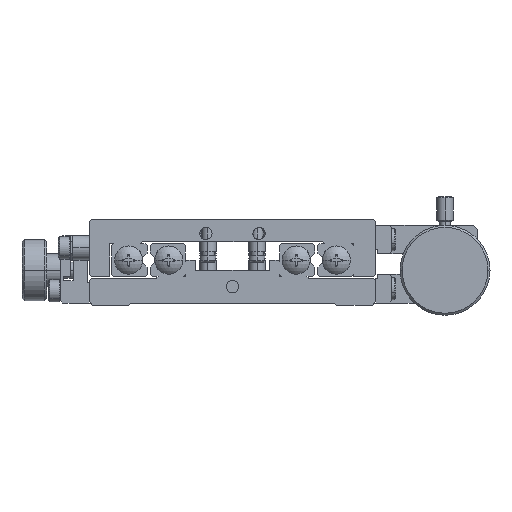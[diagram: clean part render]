
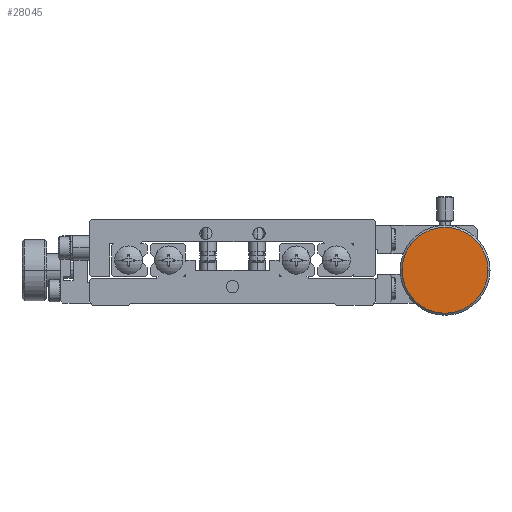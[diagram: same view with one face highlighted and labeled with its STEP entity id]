
A CAD part, front view. The second image highlights one B-rep face of the part: STEP entity #28045.
In plain terms, the highlighted planar face has unit normal (0, -1, 0).
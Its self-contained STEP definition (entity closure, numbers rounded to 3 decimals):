
#28045 = ADVANCED_FACE ( 'NONE', ( #41321 ), #41316, .T. ) ;
#28046 = EDGE_LOOP ( 'NONE', ( #28047, #28052 ) ) ;
#28047 = ORIENTED_EDGE ( 'NONE', *, *, #28051, .T. ) ;
#28051 = EDGE_CURVE ( 'NONE', #35808, #35807, #41306, .T. ) ;
#28052 = ORIENTED_EDGE ( 'NONE', *, *, #35806, .T. ) ;
#34869 = CARTESIAN_POINT ( 'NONE',  ( 41.5, -76., 8.5 ) ) ;
#34872 = CARTESIAN_POINT ( 'NONE',  ( 62.5, -76., 8.5 ) ) ;
#34873 = DIRECTION ( 'NONE',  ( 1., 0., 0. ) ) ;
#34874 = DIRECTION ( 'NONE',  ( 0., -1., 0. ) ) ;
#34875 = CARTESIAN_POINT ( 'NONE',  ( 52., -76., 8.5 ) ) ;
#34876 = AXIS2_PLACEMENT_3D ( 'NONE', #34875, #34874, #34873 ) ;
#34877 = CIRCLE ( 'NONE', #34876, 10.5 ) ;
#35806 = EDGE_CURVE ( 'NONE', #35807, #35808, #34877, .T. ) ;
#35807 = VERTEX_POINT ( 'NONE', #34872 ) ;
#35808 = VERTEX_POINT ( 'NONE', #34869 ) ;
#41302 = DIRECTION ( 'NONE',  ( 1., 0., 0. ) ) ;
#41303 = DIRECTION ( 'NONE',  ( 0., -1., 0. ) ) ;
#41304 = CARTESIAN_POINT ( 'NONE',  ( 52., -76., 8.5 ) ) ;
#41305 = AXIS2_PLACEMENT_3D ( 'NONE', #41304, #41303, #41302 ) ;
#41306 = CIRCLE ( 'NONE', #41305, 10.5 ) ;
#41311 = DIRECTION ( 'NONE',  ( 1., 0., 0. ) ) ;
#41312 = DIRECTION ( 'NONE',  ( 0., -1., 0. ) ) ;
#41313 = AXIS2_PLACEMENT_3D ( 'NONE', #41315, #41312, #41311 ) ;
#41315 = CARTESIAN_POINT ( 'NONE',  ( 52., -76., 8.5 ) ) ;
#41316 = PLANE ( 'NONE',  #41313 ) ;
#41321 = FACE_OUTER_BOUND ( 'NONE', #28046, .T. ) ;
